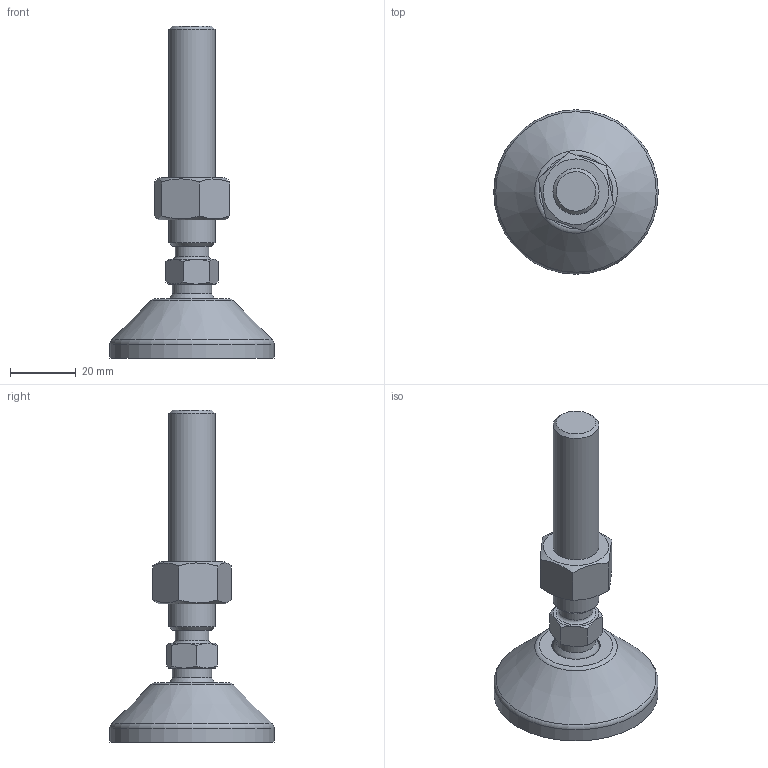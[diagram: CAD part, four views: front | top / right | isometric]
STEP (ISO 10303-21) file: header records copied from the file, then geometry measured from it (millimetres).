
FILE_DESCRIPTION(('STEP AP203'), '1');
FILE_NAME('栖闉罻', '', ('UNSPECIFIED'), ('UNSPECIFIED'), 'C3D Converter', 'C3D Toolkit', '');
FILE_SCHEMA(('CONFIG_CONTROL_DESIGN'));
Length unit declared in the file: millimetre
Products named in the file (4): A00015.1050; A00020.114066
Assembly tree (3 placements, depth 3):
  (unnamed)
    A00015.1050
    A00020.114066
      (unnamed)
Bounding box: 50 x 50 x 100.99 mm (x, y, z)
Volume: 32577.8 mm3; surface area: 13994.1 mm2
Topology: 3 solids, 3 shells, 189 faces, 500 edges, 330 vertices
Faces by surface type: plane 87, cylinder 50, torus 30, cone 20, sphere 2
Full cylindrical faces by diameter (mm): 4 x8, 10.2 x1, 11.835 x1, 12 x1, 14 x1, 14.3 x1, 15 x2, 15.5 x1, 39 x1, 50 x1
Entity records: 9859 total; most frequent: CARTESIAN_POINT 3591, DIRECTION 956, ORIENTED_EDGE 930, EDGE_CURVE 465, AXIS2_PLACEMENT_3D 400, VERTEX_POINT 329, EDGE_LOOP 238, CIRCLE 207
